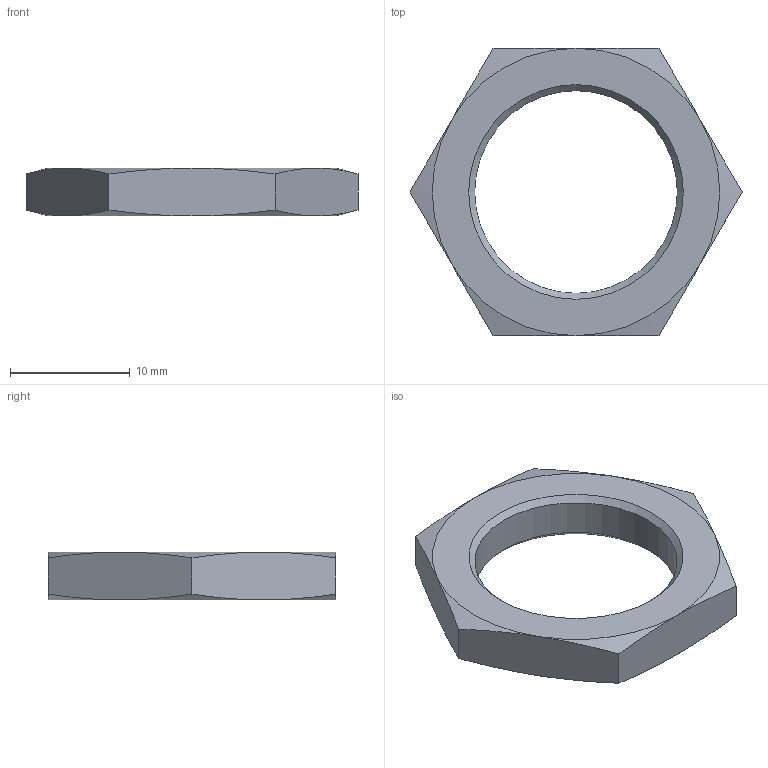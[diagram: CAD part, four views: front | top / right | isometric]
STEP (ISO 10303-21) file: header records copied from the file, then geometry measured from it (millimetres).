
FILE_DESCRIPTION( ( 'STEP AP214' ), '1' );
FILE_NAME( 'N:/Engineering/CAD_Solid/Wirbelstrom/Wirbelstromsensoren/Muttern/Mutter_M18x1.stp', '2011-12-15T12:06:10', ( ' ' ), ( ' ' ), 'XStep 1.0', ' ', ' ' );
FILE_SCHEMA( ( 'CONFIG_CONTROL_DESIGN) ( )' ) );
Length unit declared in the file: metre
Products named in the file (1): 1
Bounding box: 27.71 x 24 x 4 mm (x, y, z)
Volume: 1068.7 mm3; surface area: 1037.7 mm2
Topology: 1 solids, 1 shells, 23 faces, 49 edges, 28 vertices
Faces by surface type: cone 14, plane 8, cylinder 1
Full cylindrical faces by diameter (mm): 16.917 x1
Entity records: 868 total; most frequent: CARTESIAN_POINT 218, ORIENTED_EDGE 92, DIRECTION 86, EDGE_CURVE 46, AXIS2_PLACEMENT_3D 40, EDGE_LOOP 28, VERTEX_POINT 28, FACE_OUTER_BOUND 24
